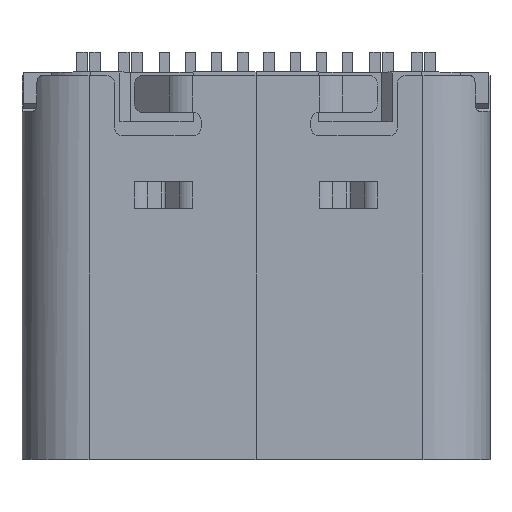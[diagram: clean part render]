
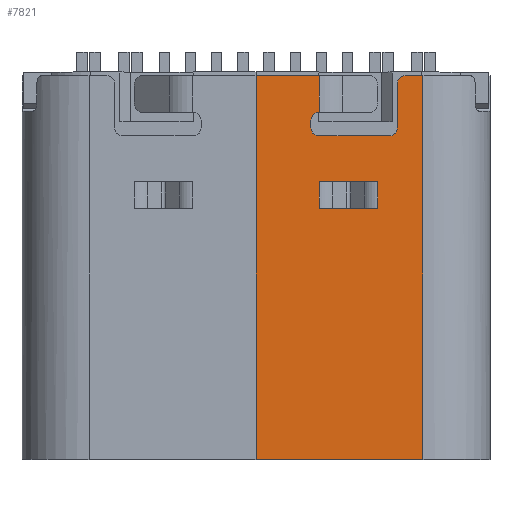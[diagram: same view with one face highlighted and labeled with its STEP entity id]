
A CAD part, top view. The second image highlights one B-rep face of the part: STEP entity #7821.
In plain terms, the highlighted planar face has unit normal (0, 0, 1).
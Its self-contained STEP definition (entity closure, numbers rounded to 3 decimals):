
#4383 = EDGE_CURVE('',#4384,#4386,#4388,.T.);
#4384 = VERTEX_POINT('',#4385);
#4385 = CARTESIAN_POINT('',(1.21,2.955,3.31));
#4386 = VERTEX_POINT('',#4387);
#4387 = CARTESIAN_POINT('',(1.21,3.655,3.31));
#4388 = LINE('',#4389,#4390);
#4389 = CARTESIAN_POINT('',(1.21,3.655,3.31));
#4390 = VECTOR('',#4391,1.);
#4391 = DIRECTION('',(0.,1.,0.));
#4621 = EDGE_CURVE('',#4622,#4386,#4624,.T.);
#4622 = VERTEX_POINT('',#4623);
#4623 = CARTESIAN_POINT('',(0.,3.655,3.31));
#4624 = LINE('',#4625,#4626);
#4625 = CARTESIAN_POINT('',(0.,3.655,3.31));
#4626 = VECTOR('',#4627,1.);
#4627 = DIRECTION('',(1.,0.,0.));
#5320 = VERTEX_POINT('',#5321);
#5321 = CARTESIAN_POINT('',(3.19,-3.675,3.31));
#5328 = EDGE_CURVE('',#5329,#5320,#5331,.T.);
#5329 = VERTEX_POINT('',#5330);
#5330 = CARTESIAN_POINT('',(0.,-3.675,3.31));
#5331 = LINE('',#5332,#5333);
#5332 = CARTESIAN_POINT('',(0.,-3.675,3.31));
#5333 = VECTOR('',#5334,1.);
#5334 = DIRECTION('',(1.,0.,0.));
#5499 = VERTEX_POINT('',#5500);
#5500 = CARTESIAN_POINT('',(3.19,3.655,3.31));
#5507 = EDGE_CURVE('',#5320,#5499,#5508,.T.);
#5508 = LINE('',#5509,#5510);
#5509 = CARTESIAN_POINT('',(3.19,-3.675,3.31));
#5510 = VECTOR('',#5511,1.);
#5511 = DIRECTION('',(0.,1.,0.));
#5897 = EDGE_CURVE('',#5329,#4622,#5898,.T.);
#5898 = LINE('',#5899,#5900);
#5899 = CARTESIAN_POINT('',(0.,-3.675,3.31));
#5900 = VECTOR('',#5901,1.);
#5901 = DIRECTION('',(0.,1.,0.));
#5997 = EDGE_CURVE('',#5998,#5499,#6000,.T.);
#5998 = VERTEX_POINT('',#5999);
#5999 = CARTESIAN_POINT('',(2.85,3.655,3.31));
#6000 = LINE('',#6001,#6002);
#6001 = CARTESIAN_POINT('',(0.,3.655,3.31));
#6002 = VECTOR('',#6003,1.);
#6003 = DIRECTION('',(1.,0.,0.));
#6429 = VERTEX_POINT('',#6430);
#6430 = CARTESIAN_POINT('',(2.7,3.505,3.31));
#6436 = EDGE_CURVE('',#5998,#6429,#6437,.T.);
#6437 = CIRCLE('',#6438,0.15);
#6438 = AXIS2_PLACEMENT_3D('',#6439,#6440,#6441);
#6439 = CARTESIAN_POINT('',(2.85,3.505,3.31));
#6440 = DIRECTION('',(0.,0.,1.));
#6441 = DIRECTION('',(0.,1.,0.));
#6451 = EDGE_CURVE('',#6452,#6454,#6456,.T.);
#6452 = VERTEX_POINT('',#6453);
#6453 = CARTESIAN_POINT('',(1.05,2.805,3.31));
#6454 = VERTEX_POINT('',#6455);
#6455 = CARTESIAN_POINT('',(1.05,2.655,3.31));
#6456 = LINE('',#6457,#6458);
#6457 = CARTESIAN_POINT('',(1.05,3.655,3.31));
#6458 = VECTOR('',#6459,1.);
#6459 = DIRECTION('',(0.,-1.,0.));
#6502 = VERTEX_POINT('',#6503);
#6503 = CARTESIAN_POINT('',(1.2,2.505,3.31));
#6509 = EDGE_CURVE('',#6454,#6502,#6510,.T.);
#6510 = CIRCLE('',#6511,0.15);
#6511 = AXIS2_PLACEMENT_3D('',#6512,#6513,#6514);
#6512 = CARTESIAN_POINT('',(1.2,2.655,3.31));
#6513 = DIRECTION('',(0.,0.,1.));
#6514 = DIRECTION('',(0.,1.,0.));
#6524 = EDGE_CURVE('',#6502,#6525,#6527,.T.);
#6525 = VERTEX_POINT('',#6526);
#6526 = CARTESIAN_POINT('',(2.55,2.505,3.31));
#6527 = LINE('',#6528,#6529);
#6528 = CARTESIAN_POINT('',(1.05,2.505,3.31));
#6529 = VECTOR('',#6530,1.);
#6530 = DIRECTION('',(1.,0.,0.));
#6555 = EDGE_CURVE('',#6556,#6525,#6558,.T.);
#6556 = VERTEX_POINT('',#6557);
#6557 = CARTESIAN_POINT('',(2.7,2.655,3.31));
#6558 = CIRCLE('',#6559,0.15);
#6559 = AXIS2_PLACEMENT_3D('',#6560,#6561,#6562);
#6560 = CARTESIAN_POINT('',(2.55,2.655,3.31));
#6561 = DIRECTION('',(0.,0.,-1.));
#6562 = DIRECTION('',(0.,1.,0.));
#6588 = EDGE_CURVE('',#6556,#6429,#6589,.T.);
#6589 = LINE('',#6590,#6591);
#6590 = CARTESIAN_POINT('',(2.7,2.505,3.31));
#6591 = VECTOR('',#6592,1.);
#6592 = DIRECTION('',(0.,1.,0.));
#6641 = EDGE_CURVE('',#6452,#6642,#6644,.T.);
#6642 = VERTEX_POINT('',#6643);
#6643 = CARTESIAN_POINT('',(1.2,2.955,3.31));
#6644 = CIRCLE('',#6645,0.15);
#6645 = AXIS2_PLACEMENT_3D('',#6646,#6647,#6648);
#6646 = CARTESIAN_POINT('',(1.2,2.805,3.31));
#6647 = DIRECTION('',(0.,0.,-1.));
#6648 = DIRECTION('',(-1.,0.,0.));
#7821 = ADVANCED_FACE('',(#7822,#7843),#7877,.T.);
#7822 = FACE_BOUND('',#7823,.T.);
#7823 = EDGE_LOOP('',(#7824,#7825,#7826,#7827,#7828,#7829,#7830,#7831,
    #7832,#7838,#7839,#7840,#7841,#7842));
#7824 = ORIENTED_EDGE('',*,*,#5997,.F.);
#7825 = ORIENTED_EDGE('',*,*,#6436,.T.);
#7826 = ORIENTED_EDGE('',*,*,#6588,.F.);
#7827 = ORIENTED_EDGE('',*,*,#6555,.T.);
#7828 = ORIENTED_EDGE('',*,*,#6524,.F.);
#7829 = ORIENTED_EDGE('',*,*,#6509,.F.);
#7830 = ORIENTED_EDGE('',*,*,#6451,.F.);
#7831 = ORIENTED_EDGE('',*,*,#6641,.T.);
#7832 = ORIENTED_EDGE('',*,*,#7833,.F.);
#7833 = EDGE_CURVE('',#4384,#6642,#7834,.T.);
#7834 = LINE('',#7835,#7836);
#7835 = CARTESIAN_POINT('',(1.21,2.955,3.31));
#7836 = VECTOR('',#7837,1.);
#7837 = DIRECTION('',(-1.,-0.,-0.));
#7838 = ORIENTED_EDGE('',*,*,#4383,.T.);
#7839 = ORIENTED_EDGE('',*,*,#4621,.F.);
#7840 = ORIENTED_EDGE('',*,*,#5897,.F.);
#7841 = ORIENTED_EDGE('',*,*,#5328,.T.);
#7842 = ORIENTED_EDGE('',*,*,#5507,.T.);
#7843 = FACE_BOUND('',#7844,.T.);
#7844 = EDGE_LOOP('',(#7845,#7855,#7863,#7871));
#7845 = ORIENTED_EDGE('',*,*,#7846,.F.);
#7846 = EDGE_CURVE('',#7847,#7849,#7851,.T.);
#7847 = VERTEX_POINT('',#7848);
#7848 = CARTESIAN_POINT('',(1.21,1.125,3.31));
#7849 = VERTEX_POINT('',#7850);
#7850 = CARTESIAN_POINT('',(2.33,1.125,3.31));
#7851 = LINE('',#7852,#7853);
#7852 = CARTESIAN_POINT('',(1.16,1.125,3.31));
#7853 = VECTOR('',#7854,1.);
#7854 = DIRECTION('',(1.,0.,0.));
#7855 = ORIENTED_EDGE('',*,*,#7856,.F.);
#7856 = EDGE_CURVE('',#7857,#7847,#7859,.T.);
#7857 = VERTEX_POINT('',#7858);
#7858 = CARTESIAN_POINT('',(1.21,1.625,3.31));
#7859 = LINE('',#7860,#7861);
#7860 = CARTESIAN_POINT('',(1.21,1.125,3.31));
#7861 = VECTOR('',#7862,1.);
#7862 = DIRECTION('',(0.,-1.,0.));
#7863 = ORIENTED_EDGE('',*,*,#7864,.F.);
#7864 = EDGE_CURVE('',#7865,#7857,#7867,.T.);
#7865 = VERTEX_POINT('',#7866);
#7866 = CARTESIAN_POINT('',(2.33,1.625,3.31));
#7867 = LINE('',#7868,#7869);
#7868 = CARTESIAN_POINT('',(2.38,1.625,3.31));
#7869 = VECTOR('',#7870,1.);
#7870 = DIRECTION('',(-1.,0.,0.));
#7871 = ORIENTED_EDGE('',*,*,#7872,.T.);
#7872 = EDGE_CURVE('',#7865,#7849,#7873,.T.);
#7873 = LINE('',#7874,#7875);
#7874 = CARTESIAN_POINT('',(2.33,1.125,3.31));
#7875 = VECTOR('',#7876,1.);
#7876 = DIRECTION('',(0.,-1.,0.));
#7877 = PLANE('',#7878);
#7878 = AXIS2_PLACEMENT_3D('',#7879,#7880,#7881);
#7879 = CARTESIAN_POINT('',(1.618,0.225,3.31));
#7880 = DIRECTION('',(0.,0.,1.));
#7881 = DIRECTION('',(1.,0.,0.));
